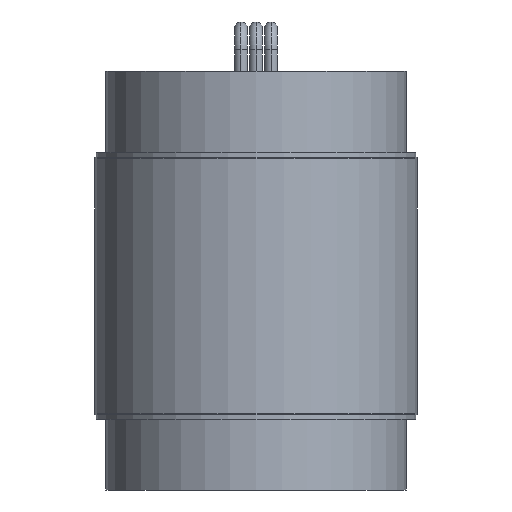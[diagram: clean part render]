
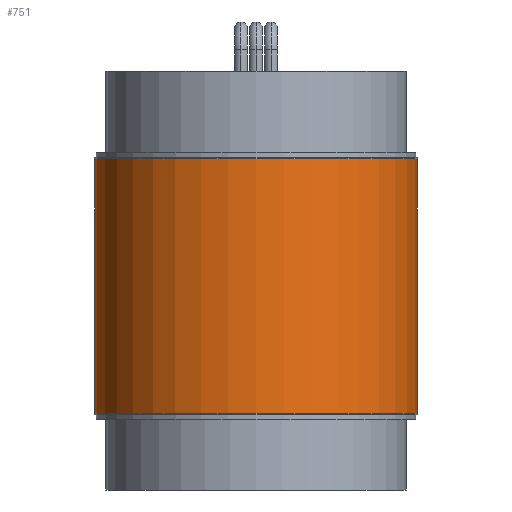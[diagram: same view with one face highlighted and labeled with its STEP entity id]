
A CAD part, front view. The second image highlights one B-rep face of the part: STEP entity #751.
In plain terms, the highlighted cylindrical face has radius 19.05 mm (diameter 38.1 mm), a partial arc.
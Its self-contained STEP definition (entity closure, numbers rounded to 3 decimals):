
#17 = CYLINDRICAL_SURFACE ( 'NONE', #2017, 19.05 ) ;
#117 = AXIS2_PLACEMENT_3D ( 'NONE', #954, #758, #183 ) ;
#159 = DIRECTION ( 'NONE',  ( 0., 0., 1. ) ) ;
#183 = DIRECTION ( 'NONE',  ( 1., 0., 0. ) ) ;
#247 = CIRCLE ( 'NONE', #117, 19.05 ) ;
#258 = VERTEX_POINT ( 'NONE', #1264 ) ;
#420 = ORIENTED_EDGE ( 'NONE', *, *, #1190, .T. ) ;
#484 = CARTESIAN_POINT ( 'NONE',  ( 19.05, 0., 15.037 ) ) ;
#498 = DIRECTION ( 'NONE',  ( 0., 0., 1. ) ) ;
#514 = ORIENTED_EDGE ( 'NONE', *, *, #560, .F. ) ;
#560 = EDGE_CURVE ( 'NONE', #258, #1914, #565, .T. ) ;
#565 = LINE ( 'NONE', #1271, #1961 ) ;
#576 = EDGE_CURVE ( 'NONE', #1914, #1171, #1661, .T. ) ;
#672 = VERTEX_POINT ( 'NONE', #801 ) ;
#716 = CARTESIAN_POINT ( 'NONE',  ( 0., 0., 15.037 ) ) ;
#751 = ADVANCED_FACE ( 'NONE', ( #2116 ), #17, .T. ) ;
#758 = DIRECTION ( 'NONE',  ( 0., 0., 1. ) ) ;
#801 = CARTESIAN_POINT ( 'NONE',  ( 19.05, 0., -15.037 ) ) ;
#844 = EDGE_LOOP ( 'NONE', ( #514, #420, #894, #1490 ) ) ;
#894 = ORIENTED_EDGE ( 'NONE', *, *, #1310, .T. ) ;
#954 = CARTESIAN_POINT ( 'NONE',  ( 0., 0., -15.037 ) ) ;
#1069 = DIRECTION ( 'NONE',  ( 0., 0., 1. ) ) ;
#1160 = DIRECTION ( 'NONE',  ( 0., 0., 1. ) ) ;
#1171 = VERTEX_POINT ( 'NONE', #484 ) ;
#1184 = CARTESIAN_POINT ( 'NONE',  ( 0., 0., -15.748 ) ) ;
#1190 = EDGE_CURVE ( 'NONE', #258, #672, #247, .T. ) ;
#1264 = CARTESIAN_POINT ( 'NONE',  ( -19.05, 0., -15.037 ) ) ;
#1271 = CARTESIAN_POINT ( 'NONE',  ( -19.05, 0., -15.748 ) ) ;
#1310 = EDGE_CURVE ( 'NONE', #672, #1171, #1544, .T. ) ;
#1427 = CARTESIAN_POINT ( 'NONE',  ( 19.05, 0., -15.748 ) ) ;
#1490 = ORIENTED_EDGE ( 'NONE', *, *, #576, .F. ) ;
#1544 = LINE ( 'NONE', #1427, #1943 ) ;
#1661 = CIRCLE ( 'NONE', #1986, 19.05 ) ;
#1886 = DIRECTION ( 'NONE',  ( 1., 0., 0. ) ) ;
#1914 = VERTEX_POINT ( 'NONE', #1920 ) ;
#1920 = CARTESIAN_POINT ( 'NONE',  ( -19.05, 0., 15.037 ) ) ;
#1943 = VECTOR ( 'NONE', #1069, 1000. ) ;
#1961 = VECTOR ( 'NONE', #159, 1000. ) ;
#1986 = AXIS2_PLACEMENT_3D ( 'NONE', #716, #498, #1990 ) ;
#1990 = DIRECTION ( 'NONE',  ( 1., 0., 0. ) ) ;
#2017 = AXIS2_PLACEMENT_3D ( 'NONE', #1184, #1160, #1886 ) ;
#2116 = FACE_OUTER_BOUND ( 'NONE', #844, .T. ) ;
